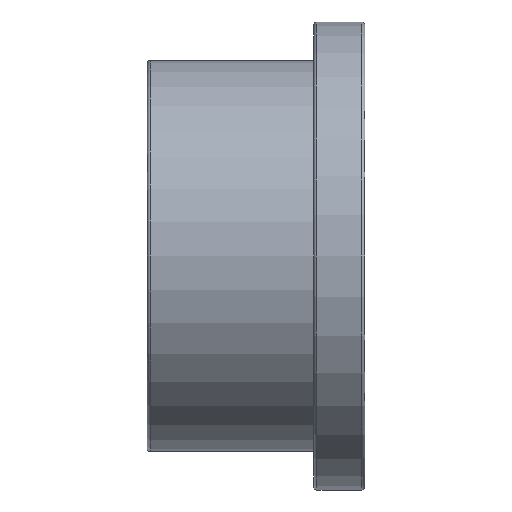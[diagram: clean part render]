
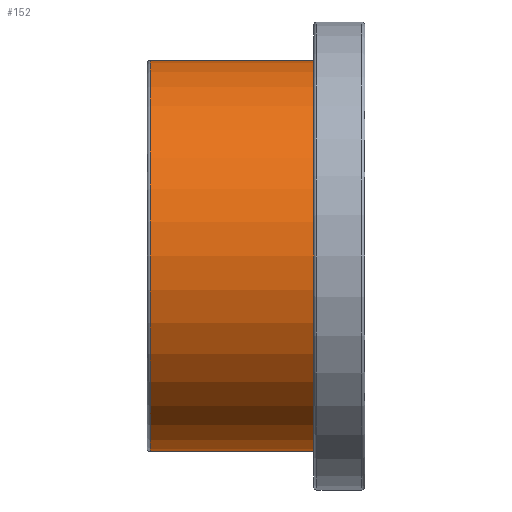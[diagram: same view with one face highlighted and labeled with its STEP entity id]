
A CAD part, front view. The second image highlights one B-rep face of the part: STEP entity #152.
In plain terms, the highlighted cylindrical face has radius 30.5 mm (diameter 61 mm), a full revolution.
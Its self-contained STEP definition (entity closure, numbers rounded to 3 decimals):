
#21=CYLINDRICAL_SURFACE('',#176,30.5);
#30=FACE_BOUND('',#64,.T.);
#43=FACE_OUTER_BOUND('',#63,.T.);
#63=EDGE_LOOP('',(#128));
#64=EDGE_LOOP('',(#129));
#78=CIRCLE('',#166,30.5);
#83=CIRCLE('',#175,30.5);
#91=VERTEX_POINT('',#250);
#96=VERTEX_POINT('',#264);
#104=EDGE_CURVE('',#91,#91,#78,.T.);
#109=EDGE_CURVE('',#96,#96,#83,.T.);
#128=ORIENTED_EDGE('',*,*,#104,.T.);
#129=ORIENTED_EDGE('',*,*,#109,.F.);
#152=ADVANCED_FACE('',(#43,#30),#21,.T.);
#166=AXIS2_PLACEMENT_3D('',#251,#200,#201);
#175=AXIS2_PLACEMENT_3D('',#265,#218,#219);
#176=AXIS2_PLACEMENT_3D('',#266,#220,#221);
#200=DIRECTION('center_axis',(-1.,0.,0.));
#201=DIRECTION('ref_axis',(0.,0.,1.));
#218=DIRECTION('center_axis',(-1.,0.,0.));
#219=DIRECTION('ref_axis',(0.,1.,0.));
#220=DIRECTION('center_axis',(-1.,0.,0.));
#221=DIRECTION('ref_axis',(0.,-1.,0.));
#250=CARTESIAN_POINT('',(26.,-30.5,0.));
#251=CARTESIAN_POINT('Origin',(26.,0.,0.));
#264=CARTESIAN_POINT('',(0.5,-30.5,0.));
#265=CARTESIAN_POINT('Origin',(0.5,0.,0.));
#266=CARTESIAN_POINT('Origin',(13.,0.,0.));
